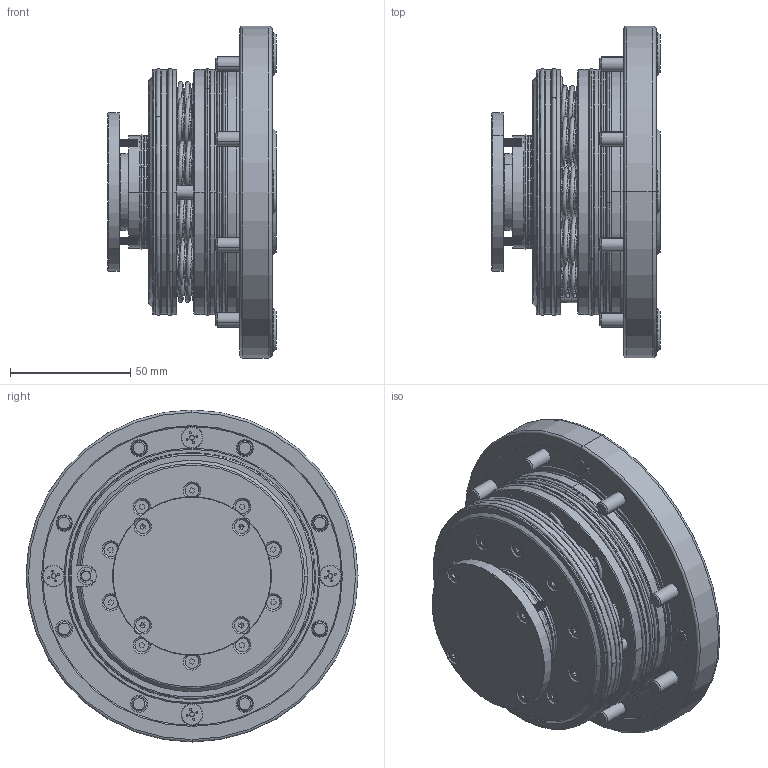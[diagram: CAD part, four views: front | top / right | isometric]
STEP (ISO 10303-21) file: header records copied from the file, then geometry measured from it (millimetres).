
FILE_DESCRIPTION (( 'STEP AP214' ), '1' );
FILE_NAME ('LQNCZ-20.STEP', '2021-06-23T03:59:06', ( 'Dell' ), ( 'Dell' ), 'SwSTEP 2.0', 'SolidWorks 2018', '' );
FILE_SCHEMA (( 'AUTOMOTIVE_DESIGN' ));
Length unit declared in the file: millimetre
Products named in the file (1): LQNCZ-20
Bounding box: 69.9 x 138 x 138 mm (x, y, z)
Volume: 520052.3 mm3; surface area: 128408.2 mm2
Topology: 21 solids, 33 shells, 1692 faces, 3959 edges, 2415 vertices
Faces by surface type: cone 509, cylinder 488, plane 409, torus 220, bspline 50, sphere 16
Entity records: 106563 total; most frequent: CARTESIAN_POINT 48140, DIRECTION 9176, ORIENTED_EDGE 7746, EDGE_CURVE 3873, AXIS2_PLACEMENT_3D 3848, VERTEX_POINT 2391, CIRCLE 2205, EDGE_LOOP 1892
